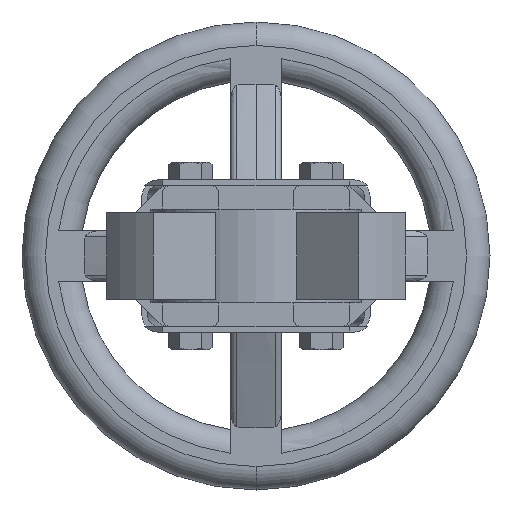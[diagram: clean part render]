
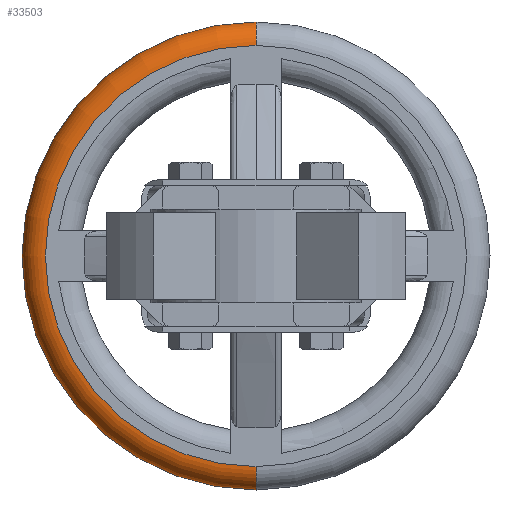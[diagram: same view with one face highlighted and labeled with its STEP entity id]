
A CAD part, front view. The second image highlights one B-rep face of the part: STEP entity #33503.
In plain terms, the highlighted toroidal (fillet/blend) face has major radius 90 mm and minor radius 10 mm.
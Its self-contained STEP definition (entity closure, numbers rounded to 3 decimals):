
#3601 = CARTESIAN_POINT ( 'NONE',  ( 0., 279., 100. ) ) ;
#3635 = DIRECTION ( 'NONE',  ( 0., 0., 1. ) ) ;
#3636 = DIRECTION ( 'NONE',  ( -1., 0., 0. ) ) ;
#3637 = CARTESIAN_POINT ( 'NONE',  ( 0., 279., 90. ) ) ;
#3638 = AXIS2_PLACEMENT_3D ( 'NONE', #3637, #3636, #3635 ) ;
#3643 = CIRCLE ( 'NONE', #3638, 10. ) ;
#4208 = CARTESIAN_POINT ( 'NONE',  ( 0., 279., -100. ) ) ;
#13820 = EDGE_CURVE ( 'NONE', #13827, #25719, #36734, .T. ) ;
#13827 = VERTEX_POINT ( 'NONE', #36782 ) ;
#13856 = VERTEX_POINT ( 'NONE', #36808 ) ;
#23240 = DIRECTION ( 'NONE',  ( 0., 0., 1. ) ) ;
#23241 = DIRECTION ( 'NONE',  ( 0., 1., 0. ) ) ;
#23242 = CARTESIAN_POINT ( 'NONE',  ( 0., 279., 0. ) ) ;
#23243 = AXIS2_PLACEMENT_3D ( 'NONE', #23242, #23241, #23240 ) ;
#23244 = DIRECTION ( 'NONE',  ( 0., 0., 1. ) ) ;
#23245 = DIRECTION ( 'NONE',  ( 0., 1., 0. ) ) ;
#23246 = AXIS2_PLACEMENT_3D ( 'NONE', #23248, #23245, #23244 ) ;
#23247 = CIRCLE ( 'NONE', #23243, 100. ) ;
#23248 = CARTESIAN_POINT ( 'NONE',  ( 0., 279., 0. ) ) ;
#23249 = TOROIDAL_SURFACE ( 'NONE', #23246, 90., 10. ) ;
#23250 = FACE_OUTER_BOUND ( 'NONE', #33518, .T. ) ;
#23256 = DIRECTION ( 'NONE',  ( 0., 0., 1. ) ) ;
#23257 = DIRECTION ( 'NONE',  ( 0., 1., 0. ) ) ;
#23258 = CARTESIAN_POINT ( 'NONE',  ( 0., 269., 0. ) ) ;
#23259 = AXIS2_PLACEMENT_3D ( 'NONE', #23258, #23257, #23256 ) ;
#23264 = CIRCLE ( 'NONE', #23259, 90. ) ;
#25574 = VERTEX_POINT ( 'NONE', #3601 ) ;
#25582 = EDGE_CURVE ( 'NONE', #13856, #25574, #3643, .T. ) ;
#25719 = VERTEX_POINT ( 'NONE', #4208 ) ;
#33490 = ORIENTED_EDGE ( 'NONE', *, *, #13820, .F. ) ;
#33498 = EDGE_CURVE ( 'NONE', #13827, #13856, #23264, .T. ) ;
#33503 = ADVANCED_FACE ( 'NONE', ( #23250 ), #23249, .T. ) ;
#33505 = EDGE_CURVE ( 'NONE', #25719, #25574, #23247, .T. ) ;
#33508 = ORIENTED_EDGE ( 'NONE', *, *, #33498, .T. ) ;
#33518 = EDGE_LOOP ( 'NONE', ( #33490, #33508, #33747, #33752 ) ) ;
#33747 = ORIENTED_EDGE ( 'NONE', *, *, #25582, .T. ) ;
#33752 = ORIENTED_EDGE ( 'NONE', *, *, #33505, .F. ) ;
#36730 = DIRECTION ( 'NONE',  ( 0., 0., -1. ) ) ;
#36731 = DIRECTION ( 'NONE',  ( 1., 0., 0. ) ) ;
#36732 = CARTESIAN_POINT ( 'NONE',  ( 0., 279., -90. ) ) ;
#36733 = AXIS2_PLACEMENT_3D ( 'NONE', #36732, #36731, #36730 ) ;
#36734 = CIRCLE ( 'NONE', #36733, 10. ) ;
#36782 = CARTESIAN_POINT ( 'NONE',  ( 0., 269., -90. ) ) ;
#36808 = CARTESIAN_POINT ( 'NONE',  ( 0., 269., 90. ) ) ;
